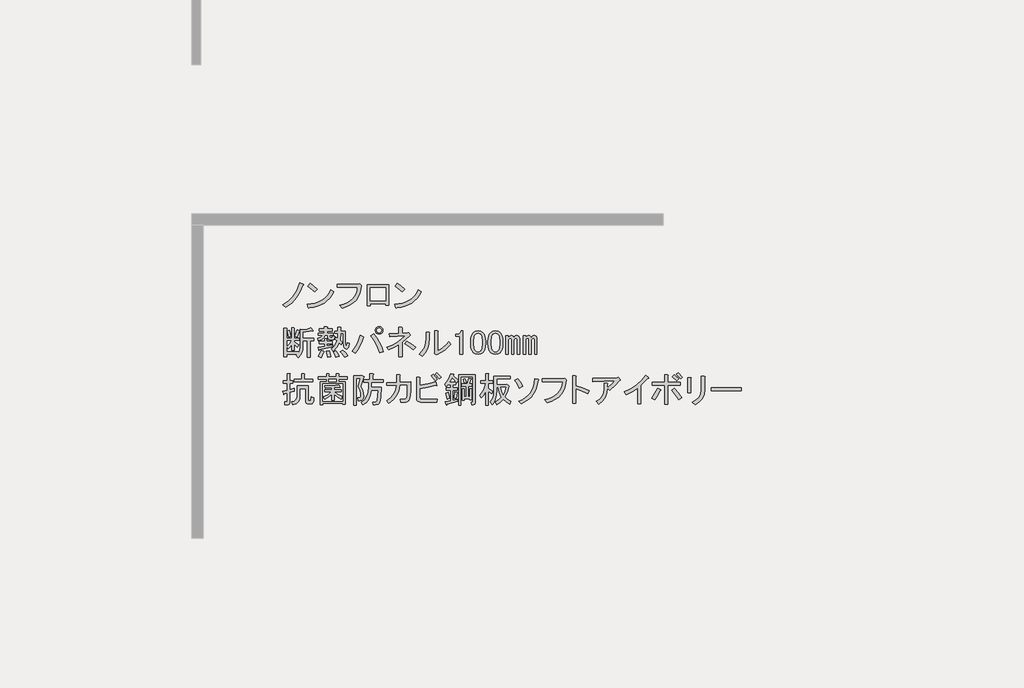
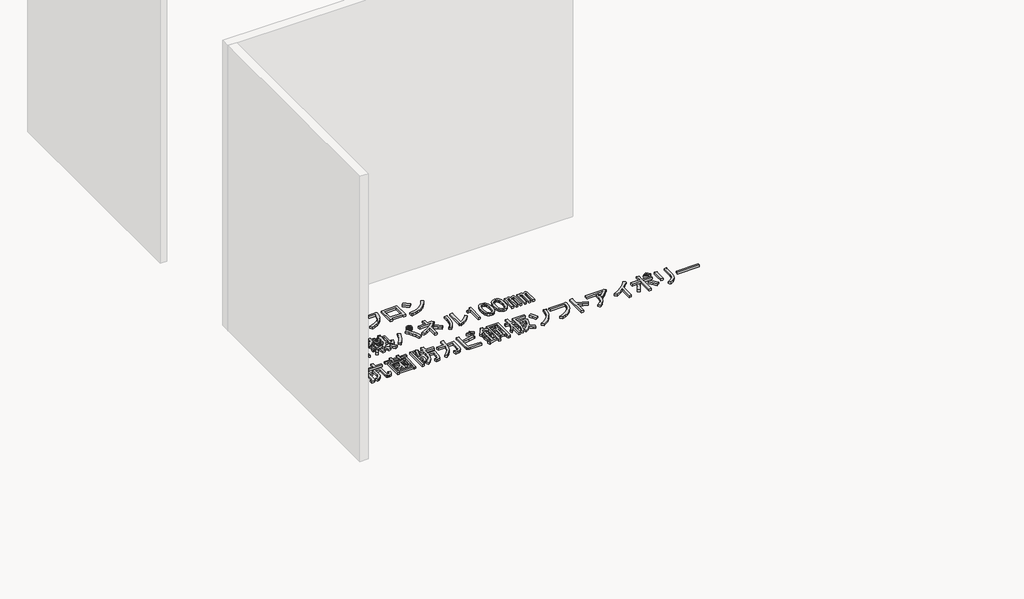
# One storey, part 23 of 117: 1 proxy.
"""IFC4 building model written with IfcOpenShell, lengths in millimetres."""

from ifc_helpers import new_model, si_unit, frame, origin, place, context, project, spatial, polyline, outline, extrude, element, save

model = new_model("IFC4")

# Units and contexts
model_context = context("Model", 3, world=origin())
ifc_project = project(units=[si_unit("LENGTHUNIT", "METRE", prefix="MILLI")], contexts=[model_context])

# Site, building, storey
site = spatial("IfcSite", under=ifc_project)
building = spatial("IfcBuilding", under=site)
storey = spatial("IfcBuildingStorey", under=building, Name="レベル 1", Elevation=500.0)

# Proxy
placement = place(None, origin())
element("IfcBuildingElementProxy", 1, Name="200㎜\u3000MS Pゴシック", ObjectType="200㎜\u3000MS Pゴシック", at=placement, inside=storey, context=model_context, shape_type="SweptSolid", body=[
    extrude(outline(polyline([(-7056.3293015, -4607.0496882), (-7081.9047498, -4666.8215225), (-7110.353844, -4712.7998566), (-7152.0217093, -4758.2034615), (-7201.1610538, -4795.560858), (-7228.7480543, -4773.7211493), (-7181.0455327, -4743.2605029), (-7141.3892195, -4704.7536481), (-7124.0036619, -4680.8305462), (-7108.6296565, -4652.7406577), (-7095.2672031, -4620.4839827), (-7083.9163019, -4584.0605212), (-7052.8809264, -4597.8540214), (-7049.7199159, -4602.4518548), (-7056.3293015, -4607.0496882)])), frame((0.0, 0.0, 500.0), z_axis=(0.0, 0.0, 1.0), x_axis=(1.0, 0.0, 0.0)), (0.0, 0.0, 1.0), 25.0),
    extrude(outline(polyline([(-6956.6022948, -4662.2236891), (-7015.2246708, -4615.0958967), (-6995.6838788, -4590.9572713), (-6968.3842429, -4610.7854279), (-6934.7625862, -4640.3839804), (-6956.6022948, -4662.2236891)])), frame((0.0, 0.0, 500.0), z_axis=(0.0, 0.0, 1.0), x_axis=(1.0, 0.0, 0.0)), (0.0, 0.0, 1.0), 25.0),
    extrude(outline(polyline([(-6794.5286672, -4662.2236891), (-6811.052131, -4691.965924), (-6830.1618761, -4717.9724192), (-6851.8579025, -4740.2431748), (-6876.1402102, -4758.7781907), (-6903.0087992, -4773.577467), (-6932.4636694, -4784.6410036), (-6964.504821, -4791.9688006), (-6999.1322539, -4795.560858), (-7004.8795456, -4803.6070664), (-7010.6268374, -4797.8597747), (-7019.8225042, -4767.9738575), (-6983.9917321, -4765.2977748), (-6951.2142088, -4758.9937141), (-6921.4899342, -4749.0616756), (-6894.8189084, -4735.5016591), (-6871.2011313, -4718.3136646), (-6850.636603, -4697.4976923), (-6833.1253234, -4673.053742), (-6818.6672926, -4644.9818138), (-6794.5286672, -4662.2236891)])), frame((0.0, 0.0, 500.0), z_axis=(0.0, 0.0, 1.0), x_axis=(1.0, 0.0, 0.0)), (0.0, 0.0, 1.0), 25.0),
    extrude(outline(polyline([(-6743.7685864, -4777.1695243), (-6709.985287, -4767.4889298), (-6680.4765359, -4755.1142922), (-6655.242333, -4740.0456116), (-6634.2826783, -4722.282888), (-6617.597572, -4701.8261214), (-6605.1870138, -4678.6753118), (-6597.0510039, -4652.8304591), (-6593.1895423, -4624.2915635), (-6765.6082951, -4624.2915635), (-6765.6082951, -4599.0034798), (-6590.8906256, -4599.0034798), (-6574.7982086, -4595.5551047), (-6562.1541668, -4607.0496882), (-6565.674383, -4643.5449909), (-6573.9361149, -4676.5919185), (-6586.9393625, -4706.1904711), (-6604.6841258, -4732.3406486), (-6627.1704048, -4755.042451), (-6654.3981995, -4774.2958784), (-6686.3675099, -4790.1009308), (-6723.078336, -4802.4576081), (-6743.7685864, -4777.1695243)])), frame((0.0, 0.0, 500.0), z_axis=(0.0, 0.0, 1.0), x_axis=(1.0, 0.0, 0.0)), (0.0, 0.0, 1.0), 25.0),
    extrude(outline(polyline([(-6329.044013, -4776.020066), (-6355.4815551, -4776.020066), (-6355.4815551, -4763.3760241), (-6483.0714321, -4763.3760241), (-6483.0714321, -4781.7673577), (-6509.5089742, -4781.7673577), (-6509.5089742, -4602.4518548), (-6329.044013, -4602.4518548), (-6329.044013, -4776.020066)]), holes=[polyline([(-6483.0714321, -4627.7399386), (-6483.0714321, -4738.0879404), (-6355.4815551, -4738.0879404), (-6355.4815551, -4627.7399386), (-6483.0714321, -4627.7399386)])]), frame((0.0, 0.0, 500.0), z_axis=(0.0, 0.0, 1.0), x_axis=(1.0, 0.0, 0.0)), (0.0, 0.0, 1.0), 25.0),
    extrude(outline(polyline([(-6052.9900951, -4662.2236891), (-6069.5135589, -4691.965924), (-6088.623304, -4717.9724192), (-6110.3193304, -4740.2431748), (-6134.6016381, -4758.7781907), (-6161.4702271, -4773.577467), (-6190.9250974, -4784.6410036), (-6222.9662489, -4791.9688006), (-6257.5936818, -4795.560858), (-6263.3409736, -4803.6070664), (-6269.0882653, -4797.8597747), (-6278.2839321, -4767.9738575), (-6242.4531601, -4765.2977748), (-6209.6756367, -4758.9937141), (-6179.9513622, -4749.0616756), (-6153.2803363, -4735.5016591), (-6129.6625593, -4718.3136646), (-6109.0980309, -4697.4976923), (-6091.5867514, -4673.053742), (-6077.1287205, -4644.9818138), (-6052.9900951, -4662.2236891)])), frame((0.0, 0.0, 500.0), z_axis=(0.0, 0.0, 1.0), x_axis=(1.0, 0.0, 0.0)), (0.0, 0.0, 1.0), 25.0),
    extrude(outline(polyline([(-6215.0637228, -4662.2236891), (-6273.6860987, -4615.0958967), (-6254.1453067, -4590.9572713), (-6226.8456709, -4610.7854279), (-6193.2240141, -4640.3839804), (-6215.0637228, -4662.2236891)])), frame((0.0, 0.0, 500.0), z_axis=(0.0, 0.0, 1.0), x_axis=(1.0, 0.0, 0.0)), (0.0, 0.0, 1.0), 25.0),
    extrude(outline(polyline([(-7122.9978859, -5039.2345221), (-7105.7560106, -4986.3594379), (-7085.0657603, -4992.1067296), (-7083.3415727, -4995.2677401), (-7087.364677, -4997.8540214), (-7104.6065523, -5046.1312722), (-7122.9978859, -5039.2345221)])), frame((0.0, 0.0, 500.0), z_axis=(0.0, 0.0, 1.0), x_axis=(1.0, 0.0, 0.0)), (0.0, 0.0, 1.0), 25.0),
    extrude(outline(polyline([(-6968.9704667, -4990.9572713), (-6970.6946542, -4995.5551047), (-6978.1661335, -4993.256188), (-7055.1798431, -5005.9002299), (-7055.1798431, -5055.326939), (-6963.2231749, -5055.326939), (-6963.2231749, -5077.1666477), (-6994.2585505, -5077.1666477), (-6994.2585505, -5217.4005666), (-7017.2477175, -5217.4005666), (-7017.2477175, -5077.1666477), (-7055.1798431, -5077.1666477), (-7055.1798431, -5126.5933568), (-7057.7661244, -5154.3958807), (-7065.5249683, -5179.1810764), (-7078.4563747, -5200.948944), (-7096.5603438, -5219.6994833), (-7113.8022191, -5200.1586914), (-7103.4570939, -5190.9630245), (-7193.1148454, -5190.9630245), (-7193.1148454, -5212.8027332), (-7216.1040124, -5212.8027332), (-7216.1040124, -4973.715396), (-7194.2643037, -4973.715396), (-7189.3791057, -4976.0143127), (-7193.1148454, -4980.6121461), (-7193.1148454, -5056.4763974), (-7150.5848863, -5056.4763974), (-7150.5848863, -4969.1175626), (-7132.1935527, -4969.1175626), (-7127.3083547, -4971.4164793), (-7131.0440943, -4976.0143127), (-7131.0440943, -5056.4763974), (-7087.364677, -5056.4763974), (-7087.364677, -5074.867731), (-7131.0440943, -5074.867731), (-7131.0440943, -5084.0633978), (-7090.813052, -5110.5009399), (-7104.6065523, -5132.3406486), (-7131.0440943, -5105.9031065), (-7131.0440943, -5158.7781907), (-7150.5848863, -5158.7781907), (-7150.5848863, -5110.5009399), (-7163.8036574, -5130.3290965), (-7178.1718868, -5146.1341488), (-7190.8159287, -5127.7428152), (-7168.97622, -5103.6041898), (-7151.7343447, -5074.867731), (-7193.1148454, -5074.867731), (-7193.1148454, -5169.1233159), (-7095.4108854, -5169.1233159), (-7095.4108854, -5182.9168161), (-7082.479479, -5158.7781907), (-7078.1690102, -5125.4438985), (-7078.1690102, -4980.6121461), (-7056.3293015, -4986.3594379), (-7020.1213634, -4978.8879586), (-6989.660717, -4965.6691875), (-6968.9704667, -4990.9572713)])), frame((0.0, 0.0, 500.0), z_axis=(0.0, 0.0, 1.0), x_axis=(1.0, 0.0, 0.0)), (0.0, 0.0, 1.0), 25.0),
    extrude(outline(polyline([(-7177.0224284, -5047.2807305), (-7189.6664703, -4996.7045631), (-7170.1256783, -4989.8078129), (-7162.3668344, -5013.9464383), (-7157.4816364, -5040.3839804), (-7177.0224284, -5047.2807305)])), frame((0.0, 0.0, 500.0), z_axis=(0.0, 0.0, 1.0), x_axis=(1.0, 0.0, 0.0)), (0.0, 0.0, 1.0), 25.0),
    extrude(outline(polyline([(-6878.1632569, -5167.9738575), (-6874.7148818, -5172.8590555), (-6880.4621736, -5176.020066), (-6890.2325696, -5201.5955143), (-6901.1524239, -5220.8489417), (-6924.141591, -5209.3543582), (-6911.4975491, -5185.790462), (-6901.1524239, -5158.7781907), (-6878.1632569, -5167.9738575)])), frame((0.0, 0.0, 500.0), z_axis=(0.0, 0.0, 1.0), x_axis=(1.0, 0.0, 0.0)), (0.0, 0.0, 1.0), 25.0),
    extrude(outline(polyline([(-6833.3343812, -5163.3760241), (-6823.2766206, -5190.67566), (-6818.3914226, -5212.8027332), (-6847.1278814, -5218.550025), (-6849.7141627, -5196.9976809), (-6857.4730066, -5166.8243992), (-6833.3343812, -5163.3760241)])), frame((0.0, 0.0, 500.0), z_axis=(0.0, 0.0, 1.0), x_axis=(1.0, 0.0, 0.0)), (0.0, 0.0, 1.0), 25.0),
    extrude(outline(polyline([(-6718.388546, -5157.6287323), (-6693.6751914, -5178.8937119), (-6674.7091286, -5203.6070664), (-6701.1466707, -5218.550025), (-6720.4000981, -5188.9514724), (-6739.0787963, -5169.1233159), (-6718.388546, -5157.6287323)])), frame((0.0, 0.0, 500.0), z_axis=(0.0, 0.0, 1.0), x_axis=(1.0, 0.0, 0.0)), (0.0, 0.0, 1.0), 25.0),
    extrude(outline(polyline([(-6777.0109219, -5216.2511083), (-6785.344495, -5191.5377537), (-6798.8506306, -5170.2727742), (-6778.1603803, -5162.2265657), (-6761.2058696, -5183.7789098), (-6749.4239215, -5207.0554415), (-6777.0109219, -5216.2511083)])), frame((0.0, 0.0, 500.0), z_axis=(0.0, 0.0, 1.0), x_axis=(1.0, 0.0, 0.0)), (0.0, 0.0, 1.0), 25.0),
    extrude(outline(polyline([(-6916.0953825, -5153.0308989), (-6918.1069346, -5157.9160969), (-6921.8426743, -5156.479274), (-6927.589966, -5132.3406486), (-6872.4159651, -5124.2944401), (-6872.4159651, -5101.3052731), (-6916.0953825, -5101.3052731), (-6916.0953825, -5082.9139395), (-6872.4159651, -5082.9139395), (-6872.4159651, -5059.9247724), (-6854.0246315, -5059.9247724), (-6849.1394335, -5062.2236891), (-6852.8751732, -5066.8215225), (-6852.8751732, -5082.9139395), (-6808.0462974, -5082.9139395), (-6808.0462974, -5101.3052731), (-6852.8751732, -5101.3052731), (-6852.8751732, -5120.8460651), (-6802.2990057, -5111.6503983), (-6802.2990057, -5127.7428152), (-6916.0953825, -5153.0308989)])), frame((0.0, 0.0, 500.0), z_axis=(0.0, 0.0, 1.0), x_axis=(1.0, 0.0, 0.0)), (0.0, 0.0, 1.0), 25.0),
    extrude(outline(polyline([(-6845.978423, -5031.1883136), (-6871.2665068, -5031.1883136), (-6875.8643402, -5048.6457123), (-6886.2094654, -5061.9363245), (-6902.3018823, -5071.0601502), (-6924.141591, -5076.0171893), (-6928.7394244, -5056.4763974), (-6903.4513406, -5047.8554597), (-6895.9798614, -5040.5276627), (-6891.9567571, -5031.1883136), (-6927.589966, -5031.1883136), (-6927.589966, -5012.79698), (-6873.5654235, -5012.79698), (-6873.5654235, -4995.5551047), (-6917.2448409, -4995.5551047), (-6917.2448409, -4977.1637711), (-6873.5654235, -4977.1637711), (-6873.5654235, -4958.7724374), (-6851.7257148, -4958.7724374), (-6846.8405168, -4961.0713541), (-6850.5762564, -4965.6691875), (-6850.5762564, -4977.1637711), (-6808.0462974, -4977.1637711), (-6808.0462974, -4995.5551047), (-6850.5762564, -4995.5551047), (-6850.5762564, -5012.79698), (-6797.7011723, -5012.79698), (-6797.7011723, -5031.1883136), (-6826.4376311, -5031.1883136), (-6826.4376311, -5043.8323555), (-6825.0008081, -5049.0049181), (-6820.6903393, -5050.7291056), (-6810.3452141, -5050.7291056), (-6806.6094745, -5047.5680951), (-6806.8968391, -5038.0850637), (-6787.3560471, -5040.3839804), (-6790.229693, -5061.9363245), (-6795.5459378, -5067.3244106), (-6803.448464, -5069.1204392), (-6827.5870894, -5069.1204392), (-6841.3805896, -5064.2352412), (-6845.978423, -5049.5796472), (-6845.978423, -5031.1883136)])), frame((0.0, 0.0, 500.0), z_axis=(0.0, 0.0, 1.0), x_axis=(1.0, 0.0, 0.0)), (0.0, 0.0, 1.0), 25.0),
    extrude(outline(polyline([(-6714.9401709, -5013.9464383), (-6736.7798796, -5013.9464383), (-6741.377713, -5071.4193559), (-6721.836921, -5089.8106896), (-6732.1820462, -5111.6503983), (-6748.2744631, -5095.5579813), (-6767.5278905, -5133.2027424), (-6797.7011723, -5165.6749408), (-6814.9430475, -5144.9846905), (-6799.8564067, -5133.0590601), (-6786.7813179, -5117.9724192), (-6775.7177813, -5099.7247679), (-6766.6657967, -5078.316106), (-6783.907672, -5063.3731475), (-6775.8614636, -5046.1312722), (-6762.0679633, -5056.4763974), (-6759.7690466, -5013.9464383), (-6787.3560471, -5013.9464383), (-6787.3560471, -4995.5551047), (-6759.7690466, -4995.5551047), (-6759.7690466, -4961.0713541), (-6737.9293379, -4961.0713541), (-6733.04414, -4963.3702708), (-6736.7798796, -4967.9681043), (-6736.7798796, -4995.5551047), (-6695.3993789, -4995.5551047), (-6695.3993789, -5092.1096063), (-6691.9510039, -5116.2482317), (-6688.7181523, -5118.2597838), (-6685.9163475, -5115.0987733), (-6681.6058787, -5093.2590646), (-6662.0650867, -5100.1558147), (-6666.591079, -5126.9525626), (-6674.421764, -5142.9731384), (-6685.5571418, -5148.2175421), (-6699.9972123, -5142.6857738), (-6706.5347567, -5135.3579768), (-6711.2044313, -5123.719711), (-6714.9401709, -5087.5117729), (-6714.9401709, -5013.9464383)])), frame((0.0, 0.0, 500.0), z_axis=(0.0, 0.0, 1.0), x_axis=(1.0, 0.0, 0.0)), (0.0, 0.0, 1.0), 25.0),
    extrude(outline(polyline([(-6456.3120417, -5016.245355), (-6429.6589762, -5052.9561812), (-6407.1726971, -5090.6727833), (-6388.8532047, -5129.3951616), (-6374.7004987, -5169.1233159), (-6405.7358742, -5179.468441), (-6421.1817208, -5136.3637528), (-6438.7828018, -5097.856898), (-6458.5391173, -5063.9478766), (-6480.4506671, -5034.6366887), (-6456.3120417, -5016.245355)])), frame((0.0, 0.0, 500.0), z_axis=(0.0, 0.0, 1.0), x_axis=(1.0, 0.0, 0.0)), (0.0, 0.0, 1.0), 25.0),
    extrude(outline(polyline([(-6543.6708765, -5042.6828971), (-6539.6477722, -5048.1428243), (-6545.9697932, -5053.0280223), (-6557.8954236, -5088.4457078), (-6572.9820644, -5122.282888), (-6591.2297158, -5154.539563), (-6612.6383776, -5185.2157328), (-6639.0759197, -5167.9738575), (-6615.8712292, -5136.5074351), (-6596.8333252, -5103.0294606), (-6581.9622078, -5067.539934), (-6571.2578769, -5030.0388553), (-6543.6708765, -5042.6828971)])), frame((0.0, 0.0, 500.0), z_axis=(0.0, 0.0, 1.0), x_axis=(1.0, 0.0, 0.0)), (0.0, 0.0, 1.0), 25.0),
    extrude(outline(polyline([(-6410.3337076, -5021.9926468), (-6422.9777495, -5019.6937301), (-6433.3228747, -5012.79698), (-6440.2196248, -5002.4518548), (-6442.5185415, -4989.8078129), (-6440.2196248, -4977.1637711), (-6433.3228747, -4966.8186459), (-6422.9777495, -4959.9218958), (-6410.3337076, -4957.6229791), (-6397.6896657, -4959.9218958), (-6387.3445406, -4966.8186459), (-6380.4477905, -4977.1637711), (-6378.1488738, -4989.8078129), (-6380.4477905, -5002.4518548), (-6387.3445406, -5012.79698), (-6397.6896657, -5019.6937301), (-6410.3337076, -5021.9926468)]), holes=[polyline([(-6410.3337076, -5010.4980633), (-6402.0001346, -5009.0612403), (-6395.390749, -5004.7507715), (-6391.0802802, -4998.141386), (-6389.6434573, -4989.8078129), (-6391.0802802, -4981.4742399), (-6395.390749, -4974.8648544), (-6402.0001346, -4970.5543855), (-6410.3337076, -4969.1175626), (-6418.6672807, -4970.5543855), (-6425.2766662, -4974.8648544), (-6429.587135, -4981.4742399), (-6431.023958, -4989.8078129), (-6429.587135, -4998.141386), (-6425.2766662, -5004.7507715), (-6418.6672807, -5009.0612403), (-6410.3337076, -5010.4980633)])]), frame((0.0, 0.0, 500.0), z_axis=(0.0, 0.0, 1.0), x_axis=(1.0, 0.0, 0.0)), (0.0, 0.0, 1.0), 25.0),
    extrude(outline(polyline([(-6120.6702029, -5155.3298156), (-6157.7402348, -5126.0186277), (-6190.7871624, -5104.7536481), (-6173.5452871, -5082.9139395), (-6134.7510677, -5106.1904711), (-6101.1294109, -5132.3406486), (-6120.6702029, -5155.3298156)])), frame((0.0, 0.0, 500.0), z_axis=(0.0, 0.0, 1.0), x_axis=(1.0, 0.0, 0.0)), (0.0, 0.0, 1.0), 25.0),
    extrude(outline(polyline([(-6166.648537, -5011.6475216), (-6159.7517869, -5009.3486049), (-6147.107745, -5026.5904802), (-6145.9582866, -5032.6251366), (-6151.7055784, -5034.6366887), (-6214.9257878, -5090.9601479), (-6214.9257878, -5211.6532749), (-6241.3633299, -5211.6532749), (-6241.3633299, -5109.3514816), (-6281.5943722, -5133.4901069), (-6326.4232479, -5155.3298156), (-6345.9640399, -5134.6395653), (-6300.4167527, -5115.1706145), (-6259.1799343, -5092.3969709), (-6222.2535848, -5066.3186345), (-6189.637704, -5036.9356054), (-6319.5264978, -5042.6828971), (-6322.9748729, -5017.3948134), (-6241.3633299, -5015.0958967), (-6241.3633299, -4963.3702708), (-6218.3741628, -4963.3702708), (-6212.3395065, -4966.8186459), (-6214.9257878, -4972.5659377), (-6214.9257878, -5013.9464383), (-6166.648537, -5011.6475216)])), frame((0.0, 0.0, 500.0), z_axis=(0.0, 0.0, 1.0), x_axis=(1.0, 0.0, 0.0)), (0.0, 0.0, 1.0), 25.0),
    extrude(outline(polyline([(-6067.703162, -5193.2619413), (-6042.5587606, -5164.0225944), (-6024.5984738, -5131.4785548), (-6013.8223018, -5095.6298225), (-6010.2302444, -5056.4763974), (-6010.2302444, -5004.7507715), (-5986.091619, -5004.7507715), (-5980.3443273, -5008.1991466), (-5983.7927023, -5013.9464383), (-5983.7927023, -5055.326939), (-5987.6002831, -5101.0897496), (-5999.0230255, -5141.82368), (-6018.0609295, -5177.5287301), (-6044.713995, -5208.2048998), (-6067.703162, -5193.2619413)])), frame((0.0, 0.0, 500.0), z_axis=(0.0, 0.0, 1.0), x_axis=(1.0, 0.0, 0.0)), (0.0, 0.0, 1.0), 25.0),
    extrude(outline(polyline([(-5913.6757429, -5162.2265657), (-5888.8905471, -5150.0135708), (-5865.1111275, -5132.9153778), (-5842.3374839, -5110.9319868), (-5820.5696163, -5084.0633978), (-5804.4771994, -5105.9031065), (-5827.753731, -5133.7056304), (-5853.9039086, -5157.3413678), (-5882.9277319, -5176.8103186), (-5914.8252012, -5192.1124829), (-5924.020868, -5196.7103163), (-5942.4122017, -5182.9168161), (-5940.113285, -5177.1695243), (-5940.113285, -4992.1067296), (-5915.9746596, -4992.1067296), (-5910.2273678, -4995.5551047), (-5913.6757429, -5001.3023965), (-5913.6757429, -5162.2265657)])), frame((0.0, 0.0, 500.0), z_axis=(0.0, 0.0, 1.0), x_axis=(1.0, 0.0, 0.0)), (0.0, 0.0, 1.0), 25.0),
    extrude(outline(polyline([(-5725.1645731, -5015.0958967), (-5717.1183647, -5004.1760423), (-5713.6699896, -4992.1067296), (-5699.8764894, -4992.1067296), (-5699.8764894, -5190.9630245), (-5726.3140315, -5190.9630245), (-5726.3140315, -5038.0850637), (-5760.797782, -5038.0850637), (-5760.797782, -5024.2915635), (-5750.4526569, -5024.2915635), (-5736.0844275, -5021.9926468), (-5725.1645731, -5015.0958967)])), frame((0.0, 0.0, 500.0), z_axis=(0.0, 0.0, 1.0), x_axis=(1.0, 0.0, 0.0)), (0.0, 0.0, 1.0), 25.0),
    extrude(outline(polyline([(-5634.3573633, -5081.7644811), (-5632.9205404, -5058.2005849), (-5628.6100716, -5038.0850637), (-5621.4259569, -5021.4179176), (-5611.3681963, -5008.1991466), (-5593.2642272, -4996.1298339), (-5571.137154, -4992.1067296), (-5549.0100807, -4996.1298339), (-5530.9061116, -5008.1991466), (-5520.8483511, -5021.4179176), (-5513.6642364, -5038.0850637), (-5509.3537675, -5058.2005849), (-5507.9169446, -5081.7644811), (-5507.9169446, -5104.7536481), (-5509.3537675, -5127.8146563), (-5513.6642364, -5147.5709718), (-5520.8483511, -5164.0225944), (-5530.9061116, -5177.1695243), (-5549.0100807, -5189.238837), (-5571.137154, -5193.2619413), (-5593.2642272, -5189.238837), (-5611.3681963, -5177.1695243), (-5621.4259569, -5164.0225944), (-5628.6100716, -5147.5709718), (-5632.9205404, -5127.8146563), (-5634.3573633, -5104.7536481), (-5634.3573633, -5081.7644811)]), holes=[polyline([(-5571.137154, -5013.9464383), (-5582.0570083, -5016.245355), (-5591.8274043, -5023.1421052), (-5598.3649487, -5032.2659308), (-5603.0346232, -5044.6944493), (-5606.7703629, -5079.4655644), (-5606.7703629, -5105.9031065), (-5602.7472586, -5140.0994925), (-5597.7183783, -5152.6716932), (-5590.6779459, -5162.2265657), (-5581.1949145, -5169.1233159), (-5571.137154, -5171.4222326), (-5560.2172996, -5169.1233159), (-5550.4469036, -5162.2265657), (-5543.9093592, -5153.1027401), (-5539.2396847, -5140.6742216), (-5535.503945, -5105.9031065), (-5535.503945, -5079.4655644), (-5539.2396847, -5044.6944493), (-5543.9093592, -5032.2659308), (-5550.4469036, -5023.1421052), (-5560.2172996, -5016.245355), (-5571.137154, -5013.9464383)])]), frame((0.0, 0.0, 500.0), z_axis=(0.0, 0.0, 1.0), x_axis=(1.0, 0.0, 0.0)), (0.0, 0.0, 1.0), 25.0),
    extrude(outline(polyline([(-5487.2266943, -5081.7644811), (-5485.7898713, -5058.2005849), (-5481.4794025, -5038.0850637), (-5474.2952878, -5021.4179176), (-5464.2375272, -5008.1991466), (-5446.1335582, -4996.1298339), (-5424.0064849, -4992.1067296), (-5401.8794116, -4996.1298339), (-5383.7754426, -5008.1991466), (-5373.717682, -5021.4179176), (-5366.5335673, -5038.0850637), (-5362.2230985, -5058.2005849), (-5360.7862755, -5081.7644811), (-5360.7862755, -5104.7536481), (-5362.2230985, -5127.8146563), (-5366.5335673, -5147.5709718), (-5373.717682, -5164.0225944), (-5383.7754426, -5177.1695243), (-5401.8794116, -5189.238837), (-5424.0064849, -5193.2619413), (-5446.1335582, -5189.238837), (-5464.2375272, -5177.1695243), (-5474.2952878, -5164.0225944), (-5481.4794025, -5147.5709718), (-5485.7898713, -5127.8146563), (-5487.2266943, -5104.7536481), (-5487.2266943, -5081.7644811)]), holes=[polyline([(-5424.0064849, -5013.9464383), (-5434.9263392, -5016.245355), (-5444.6967352, -5023.1421052), (-5451.2342796, -5032.2659308), (-5455.9039542, -5044.6944493), (-5459.6396938, -5079.4655644), (-5459.6396938, -5105.9031065), (-5455.6165896, -5140.0994925), (-5450.5877093, -5152.6716932), (-5443.5472769, -5162.2265657), (-5434.0642455, -5169.1233159), (-5424.0064849, -5171.4222326), (-5413.0866306, -5169.1233159), (-5403.3162346, -5162.2265657), (-5396.7786902, -5153.1027401), (-5392.1090156, -5140.6742216), (-5388.373276, -5105.9031065), (-5388.373276, -5079.4655644), (-5392.1090156, -5044.6944493), (-5396.7786902, -5032.2659308), (-5403.3162346, -5023.1421052), (-5413.0866306, -5016.245355), (-5424.0064849, -5013.9464383)])]), frame((0.0, 0.0, 500.0), z_axis=(0.0, 0.0, 1.0), x_axis=(1.0, 0.0, 0.0)), (0.0, 0.0, 1.0), 25.0),
    extrude(outline(polyline([(-5315.9573998, -5193.2619413), (-5335.4981918, -5193.2619413), (-5335.4981918, -5035.786147), (-5315.9573998, -5035.786147), (-5315.9573998, -5053.0280223), (-5303.8880871, -5037.5103346), (-5290.6693161, -5032.337772), (-5281.4736492, -5033.7745949), (-5274.5768991, -5038.0850637), (-5267.680149, -5051.878564), (-5254.7487426, -5037.22297), (-5241.2426069, -5032.337772), (-5232.9090339, -5033.7745949), (-5226.2996483, -5038.0850637), (-5221.1270858, -5046.7060014), (-5219.4028982, -5058.7753141), (-5219.4028982, -5193.2619413), (-5238.9436902, -5193.2619413), (-5238.9436902, -5069.1204392), (-5241.5299715, -5059.6374078), (-5249.2888154, -5056.4763974), (-5259.6339406, -5061.0742308), (-5265.6685969, -5069.6951684), (-5267.680149, -5079.4655644), (-5267.680149, -5193.2619413), (-5287.220941, -5193.2619413), (-5287.220941, -5069.1204392), (-5289.8072223, -5059.6374078), (-5297.5660662, -5056.4763974), (-5307.9111913, -5061.0742308), (-5313.9458477, -5069.6951684), (-5315.9573998, -5079.4655644), (-5315.9573998, -5193.2619413)])), frame((0.0, 0.0, 500.0), z_axis=(0.0, 0.0, 1.0), x_axis=(1.0, 0.0, 0.0)), (0.0, 0.0, 1.0), 25.0),
    extrude(outline(polyline([(-5094.1119379, -5032.337772), (-5085.7783648, -5033.7745949), (-5079.1689793, -5038.0850637), (-5073.9964167, -5046.7060014), (-5072.2722292, -5058.7753141), (-5072.2722292, -5193.2619413), (-5091.8130212, -5193.2619413), (-5091.8130212, -5069.1204392), (-5094.3993024, -5059.6374078), (-5102.1581463, -5056.4763974), (-5112.5032715, -5061.0742308), (-5118.5379278, -5069.6951684), (-5120.54948, -5079.4655644), (-5120.54948, -5193.2619413), (-5140.0902719, -5193.2619413), (-5140.0902719, -5069.1204392), (-5142.6765532, -5059.6374078), (-5150.4353971, -5056.4763974), (-5160.7805223, -5061.0742308), (-5166.8151786, -5069.6951684), (-5168.8267307, -5079.4655644), (-5168.8267307, -5193.2619413), (-5188.3675227, -5193.2619413), (-5188.3675227, -5035.786147), (-5168.8267307, -5035.786147), (-5168.8267307, -5053.0280223), (-5156.757418, -5037.5103346), (-5143.538647, -5032.337772), (-5134.3429802, -5033.7745949), (-5127.4462301, -5038.0850637), (-5120.54948, -5051.878564), (-5107.6180735, -5037.22297), (-5094.1119379, -5032.337772)])), frame((0.0, 0.0, 500.0), z_axis=(0.0, 0.0, 1.0), x_axis=(1.0, 0.0, 0.0)), (0.0, 0.0, 1.0), 25.0),
    extrude(outline(polyline([(-7010.3509674, -5461.0742308), (-7010.3509674, -5577.1695243), (-7008.3394153, -5584.0662744), (-7002.3047589, -5586.3651911), (-6995.4080088, -5586.3651911), (-6990.8101754, -5584.0662744), (-6988.5112587, -5577.1695243), (-6986.212342, -5554.1803573), (-6962.0737166, -5562.2265657), (-6964.3726333, -5585.2157328), (-6966.67155, -5596.7821575), (-6971.2693834, -5605.0438894), (-6978.1661335, -5610.0009285), (-6987.3618003, -5611.6532749), (-7009.201509, -5611.6532749), (-7019.7621576, -5610.3601342), (-7027.3054781, -5606.4807123), (-7031.8314703, -5600.0150091), (-7033.3401344, -5590.9630245), (-7033.3401344, -5482.9139395), (-7080.4679269, -5482.9139395), (-7080.4679269, -5548.4330655), (-7084.2036665, -5573.2901024), (-7095.4108854, -5593.8366704), (-7114.0895837, -5610.0727697), (-7140.2397612, -5621.9984001), (-7149.435428, -5596.7103163), (-7129.3199068, -5589.238837), (-7114.9516774, -5578.3189827), (-7106.3307398, -5563.9507533), (-7103.4570939, -5546.1341488), (-7103.4570939, -5461.0742308), (-7010.3509674, -5461.0742308)])), frame((0.0, 0.0, 500.0), z_axis=(0.0, 0.0, 1.0), x_axis=(1.0, 0.0, 0.0)), (0.0, 0.0, 1.0), 25.0),
    extrude(outline(polyline([(-7212.6556373, -5527.7428152), (-7216.1040124, -5533.7774715), (-7219.5523875, -5528.8922735), (-7227.5985959, -5505.9031065), (-7189.6664703, -5497.856898), (-7189.6664703, -5438.0850637), (-7223.0007625, -5438.0850637), (-7223.0007625, -5416.245355), (-7189.6664703, -5416.245355), (-7189.6664703, -5356.4735207), (-7167.8267616, -5356.4735207), (-7162.9415636, -5358.7724374), (-7166.6773033, -5363.3702708), (-7166.6773033, -5416.245355), (-7140.2397612, -5416.245355), (-7140.2397612, -5438.0850637), (-7166.6773033, -5438.0850637), (-7166.6773033, -5492.1096063), (-7131.0440943, -5481.7644811), (-7128.7451776, -5503.6041898), (-7166.6773033, -5515.0987733), (-7166.6773033, -5603.6070664), (-7170.4130429, -5615.6763791), (-7181.6202618, -5619.6994833), (-7208.0578039, -5619.6994833), (-7211.506179, -5594.4113996), (-7194.2643037, -5594.4113996), (-7190.8159287, -5593.2619413), (-7189.6664703, -5589.8135662), (-7189.6664703, -5520.8460651), (-7212.6556373, -5527.7428152)])), frame((0.0, 0.0, 500.0), z_axis=(0.0, 0.0, 1.0), x_axis=(1.0, 0.0, 0.0)), (0.0, 0.0, 1.0), 25.0),
    extrude(outline(polyline([(-7066.6744266, -5403.6013132), (-7066.6744266, -5357.6229791), (-7044.8347179, -5357.6229791), (-7039.9495199, -5359.9218958), (-7043.6852596, -5364.5197292), (-7043.6852596, -5403.6013132), (-6972.4188418, -5403.6013132), (-6972.4188418, -5425.4410219), (-7128.7451776, -5425.4410219), (-7128.7451776, -5403.6013132), (-7066.6744266, -5403.6013132)])), frame((0.0, 0.0, 500.0), z_axis=(0.0, 0.0, 1.0), x_axis=(1.0, 0.0, 0.0)), (0.0, 0.0, 1.0), 25.0),
    extrude(outline(polyline([(-6870.1170484, -5461.0742308), (-6804.0231932, -5457.3384911), (-6752.8722965, -5450.7291056), (-6742.5271714, -5464.5226058), (-6740.2282547, -5470.5572622), (-6747.1250048, -5470.2698976), (-6791.9538805, -5473.7182726), (-6791.9538805, -5490.9601479), (-6732.1820462, -5490.9601479), (-6732.1820462, -5509.3514816), (-6788.5055054, -5509.3514816), (-6757.1827653, -5533.7774715), (-6720.6874627, -5549.5825239), (-6728.7336711, -5571.4222326), (-6761.2058696, -5555.9045448), (-6791.9538805, -5530.0417319), (-6791.9538805, -5580.6178994), (-6811.4946725, -5580.6178994), (-6811.4946725, -5531.1911902), (-6836.4953916, -5553.8929927), (-6872.4159651, -5573.7211493), (-6881.611632, -5554.1803573), (-6842.8174126, -5534.3522007), (-6813.7935892, -5509.3514816), (-6871.2665068, -5509.3514816), (-6871.2665068, -5490.9601479), (-6811.4946725, -5490.9601479), (-6811.4946725, -5476.0171893), (-6865.519215, -5478.316106), (-6870.1170484, -5461.0742308)])), frame((0.0, 0.0, 500.0), z_axis=(0.0, 0.0, 1.0), x_axis=(1.0, 0.0, 0.0)), (0.0, 0.0, 1.0), 25.0),
    extrude(outline(polyline([(-6751.7228382, -5423.1421052), (-6696.5488373, -5423.1421052), (-6696.5488373, -5617.4005666), (-6716.0896293, -5617.4005666), (-6716.0896293, -5608.2048998), (-6888.5083821, -5608.2048998), (-6888.5083821, -5621.9984001), (-6908.0491741, -5621.9984001), (-6908.0491741, -5423.1421052), (-6855.1740899, -5423.1421052), (-6855.1740899, -5402.4518548), (-6925.2910493, -5402.4518548), (-6925.2910493, -5384.0605212), (-6855.1740899, -5384.0605212), (-6855.1740899, -5357.6229791), (-6836.7827562, -5357.6229791), (-6831.8975582, -5359.9218958), (-6835.6332979, -5364.5197292), (-6835.6332979, -5384.0605212), (-6771.2636302, -5384.0605212), (-6771.2636302, -5357.6229791), (-6752.8722965, -5357.6229791), (-6747.9870985, -5359.9218958), (-6751.7228382, -5364.5197292), (-6751.7228382, -5384.0605212), (-6678.1575036, -5384.0605212), (-6678.1575036, -5402.4518548), (-6751.7228382, -5402.4518548), (-6751.7228382, -5423.1421052)]), holes=[polyline([(-6888.5083821, -5441.5334388), (-6888.5083821, -5589.8135662), (-6716.0896293, -5589.8135662), (-6716.0896293, -5441.5334388), (-6888.5083821, -5441.5334388)]), polyline([(-6835.6332979, -5423.1421052), (-6771.2636302, -5423.1421052), (-6771.2636302, -5402.4518548), (-6835.6332979, -5402.4518548), (-6835.6332979, -5423.1421052)])]), frame((0.0, 0.0, 500.0), z_axis=(0.0, 0.0, 1.0), x_axis=(1.0, 0.0, 0.0)), (0.0, 0.0, 1.0), 25.0),
    extrude(outline(polyline([(-6475.8528337, -5495.5579813), (-6483.0369484, -5538.7345107), (-6497.6925424, -5574.0085139), (-6519.8196156, -5601.3799909), (-6549.4181682, -5620.8489417), (-6560.9127517, -5597.8597747), (-6533.2539101, -5578.0316181), (-6513.4975947, -5549.5825239), (-6501.6438055, -5512.512492), (-6497.6925424, -5466.8215225), (-6497.6925424, -5428.8893969), (-6541.3719597, -5428.8893969), (-6541.3719597, -5407.0496882), (-6488.4968756, -5407.0496882), (-6488.4968756, -5358.7724374), (-6463.2087918, -5358.7724374), (-6457.1741355, -5362.2208125), (-6462.0593335, -5367.9681043), (-6462.0593335, -5407.0496882), (-6373.5510404, -5407.0496882), (-6373.5510404, -5428.8893969), (-6474.7033753, -5428.8893969), (-6474.7033753, -5473.7182726), (-6391.942374, -5473.7182726), (-6397.6896657, -5555.9045448), (-6405.7358742, -5600.1586914), (-6410.6210722, -5608.7077879), (-6418.3799161, -5614.8142854), (-6442.5185415, -5619.6994833), (-6460.9098751, -5619.6994833), (-6464.3582502, -5597.8597747), (-6447.1163749, -5597.8597747), (-6434.7596976, -5594.6987642), (-6427.5755829, -5585.2157328), (-6418.3799161, -5495.5579813), (-6475.8528337, -5495.5579813)])), frame((0.0, 0.0, 500.0), z_axis=(0.0, 0.0, 1.0), x_axis=(1.0, 0.0, 0.0)), (0.0, 0.0, 1.0), 25.0),
    extrude(outline(polyline([(-6542.5214181, -5520.8460651), (-6540.5817071, -5548.5049067), (-6545.1076994, -5568.2612221), (-6556.0993949, -5580.1150114), (-6573.5567936, -5584.0662744), (-6587.3502938, -5584.0662744), (-6591.9481272, -5562.2265657), (-6580.4535437, -5562.2265657), (-6572.1199707, -5560.0713313), (-6566.6600435, -5553.6056281), (-6564.0737622, -5542.8294561), (-6564.3611268, -5527.7428152), (-6571.2578769, -5500.7305439), (-6587.3502938, -5465.6720642), (-6568.9589602, -5394.4056463), (-6603.4427108, -5394.4056463), (-6603.4427108, -5623.1478584), (-6626.4318778, -5623.1478584), (-6626.4318778, -5372.5659377), (-6562.0622101, -5372.5659377), (-6559.7632934, -5367.9681043), (-6535.624668, -5380.6121461), (-6534.187845, -5384.3478858), (-6539.073043, -5386.3594379), (-6565.5105851, -5464.5226058), (-6549.9928974, -5496.9948043), (-6542.5214181, -5520.8460651)])), frame((0.0, 0.0, 500.0), z_axis=(0.0, 0.0, 1.0), x_axis=(1.0, 0.0, 0.0)), (0.0, 0.0, 1.0), 25.0),
    extrude(outline(polyline([(-6170.096912, -5450.7291056), (-6235.6160381, -5453.0280223), (-6243.87777, -5499.293721), (-6261.7662156, -5540.3868571), (-6289.2813749, -5576.3074306), (-6326.4232479, -5607.0554415), (-6345.9640399, -5587.5146495), (-6310.9774013, -5559.2810787), (-6285.3301118, -5527.4554506), (-6269.0221715, -5492.0377651), (-6262.0535802, -5453.0280223), (-6343.6651232, -5455.326939), (-6345.9640399, -5432.337772), (-6260.9041219, -5430.0388553), (-6260.9041219, -5365.6691875), (-6236.7654965, -5365.6691875), (-6229.8687463, -5369.1175626), (-6234.4665798, -5374.8648544), (-6234.4665798, -5430.0388553), (-6143.6593699, -5426.5904802), (-6143.6593699, -5497.856898), (-6146.2456512, -5545.8467842), (-6154.0044951, -5577.1695243), (-6160.6138806, -5587.2272849), (-6170.096912, -5594.4113996), (-6182.4535893, -5598.7218684), (-6197.6839125, -5600.1586914), (-6225.2709129, -5600.1586914), (-6228.719288, -5571.4222326), (-6198.8333708, -5573.7211493), (-6184.752506, -5570.8475034), (-6176.9936622, -5562.2265657), (-6171.8210996, -5536.938482), (-6170.096912, -5497.856898), (-6170.096912, -5450.7291056)])), frame((0.0, 0.0, 500.0), z_axis=(0.0, 0.0, 1.0), x_axis=(1.0, 0.0, 0.0)), (0.0, 0.0, 1.0), 25.0),
    extrude(outline(polyline([(-5919.606948, -5453.0280223), (-5919.3195834, -5459.0626787), (-5929.9520731, -5456.4763974), (-5996.0459284, -5471.7067205), (-6065.5881587, -5482.9139395), (-6065.5881587, -5557.6287323), (-6061.852419, -5568.8359513), (-6050.6452001, -5572.5716909), (-5918.4574896, -5572.5716909), (-5920.7564063, -5597.8597747), (-6055.2430335, -5597.8597747), (-6071.3354504, -5595.9919048), (-6082.830034, -5590.3882954), (-6089.7267841, -5581.0489463), (-6092.0257008, -5567.9738575), (-6092.0257008, -5387.5088962), (-6069.0365337, -5387.5088962), (-6061.852419, -5390.9572713), (-6065.5881587, -5396.7045631), (-6065.5881587, -5455.326939), (-5992.3101887, -5443.5449909), (-5928.8026148, -5426.5904802), (-5919.606948, -5453.0280223)])), frame((0.0, 0.0, 500.0), z_axis=(0.0, 0.0, 1.0), x_axis=(1.0, 0.0, 0.0)), (0.0, 0.0, 1.0), 25.0),
    extrude(outline(polyline([(-5933.4004482, -5415.0958967), (-5969.0336571, -5374.8648544), (-5952.9412402, -5362.2208125), (-5917.3080313, -5402.4518548), (-5933.4004482, -5415.0958967)])), frame((0.0, 0.0, 500.0), z_axis=(0.0, 0.0, 1.0), x_axis=(1.0, 0.0, 0.0)), (0.0, 0.0, 1.0), 25.0),
    extrude(outline(polyline([(-5900.066156, -5399.0034798), (-5935.6993649, -5359.9218958), (-5921.9058647, -5347.2778539), (-5885.1231974, -5386.3594379), (-5900.066156, -5399.0034798)])), frame((0.0, 0.0, 500.0), z_axis=(0.0, 0.0, 1.0), x_axis=(1.0, 0.0, 0.0)), (0.0, 0.0, 1.0), 25.0),
    extrude(outline(polyline([(-5629.7595299, -5399.0034798), (-5627.1732486, -5402.4518548), (-5633.207905, -5405.9002299), (-5645.8519468, -5443.8323555), (-5625.1616965, -5443.8323555), (-5625.1616965, -5462.2236891), (-5656.197072, -5462.2236891), (-5656.197072, -5550.7319822), (-5641.2541134, -5550.7319822), (-5641.2541134, -5482.9139395), (-5625.1616965, -5482.9139395), (-5625.1616965, -5577.1695243), (-5641.2541134, -5577.1695243), (-5641.2541134, -5569.1233159), (-5687.2324475, -5569.1233159), (-5687.2324475, -5581.7673577), (-5703.3248644, -5581.7673577), (-5703.3248644, -5485.2128562), (-5687.2324475, -5485.2128562), (-5687.2324475, -5550.7319822), (-5672.2894889, -5550.7319822), (-5672.2894889, -5462.2236891), (-5707.9226978, -5462.2236891), (-5707.9226978, -5443.8323555), (-5661.9443638, -5443.8323555), (-5651.5992386, -5394.4056463), (-5629.7595299, -5399.0034798)])), frame((0.0, 0.0, 500.0), z_axis=(0.0, 0.0, 1.0), x_axis=(1.0, 0.0, 0.0)), (0.0, 0.0, 1.0), 25.0),
    extrude(outline(polyline([(-5735.5096983, -5365.6691875), (-5595.2757793, -5365.6691875), (-5595.2757793, -5605.9059831), (-5599.011519, -5617.1132021), (-5610.2187379, -5620.8489417), (-5626.3111549, -5620.8489417), (-5630.9089883, -5599.009233), (-5619.4144047, -5599.009233), (-5615.9660297, -5597.8597747), (-5614.8165713, -5594.4113996), (-5614.8165713, -5384.0605212), (-5715.9689063, -5384.0605212), (-5715.9689063, -5623.1478584), (-5735.5096983, -5623.1478584), (-5735.5096983, -5365.6691875)])), frame((0.0, 0.0, 500.0), z_axis=(0.0, 0.0, 1.0), x_axis=(1.0, 0.0, 0.0)), (0.0, 0.0, 1.0), 25.0),
    extrude(outline(polyline([(-5682.6346141, -5397.8540214), (-5675.4504994, -5413.0843446), (-5669.9905722, -5433.4872303), (-5687.2324475, -5439.2345221), (-5698.727031, -5402.4518548), (-5682.6346141, -5397.8540214)])), frame((0.0, 0.0, 500.0), z_axis=(0.0, 0.0, 1.0), x_axis=(1.0, 0.0, 0.0)), (0.0, 0.0, 1.0), 25.0),
    extrude(outline(polyline([(-5750.4526569, -5434.6366887), (-5791.8331575, -5390.9572713), (-5813.6728662, -5430.0388553), (-5758.4988653, -5430.0388553), (-5758.4988653, -5448.4301889), (-5784.9364074, -5448.4301889), (-5784.9364074, -5477.1666477), (-5747.0042818, -5477.1666477), (-5747.0042818, -5495.5579813), (-5784.9364074, -5495.5579813), (-5784.9364074, -5582.9168161), (-5745.8548235, -5572.5716909), (-5743.5559068, -5592.1124829), (-5835.5125749, -5617.4005666), (-5837.8114916, -5623.1478584), (-5842.409325, -5619.6994833), (-5849.3060752, -5596.7103163), (-5804.4771994, -5587.5146495), (-5804.4771994, -5495.5579813), (-5842.409325, -5495.5579813), (-5842.409325, -5477.1666477), (-5804.4771994, -5477.1666477), (-5804.4771994, -5448.4301889), (-5826.3169081, -5448.4301889), (-5841.2598667, -5466.8215225), (-5853.9039086, -5446.1312722), (-5825.7421789, -5408.4865112), (-5801.0288244, -5357.6229791), (-5779.1891157, -5363.3702708), (-5775.7407406, -5367.1060105), (-5781.4880324, -5369.1175626), (-5782.6374907, -5372.5659377), (-5737.808615, -5410.4980633), (-5750.4526569, -5434.6366887)])), frame((0.0, 0.0, 500.0), z_axis=(0.0, 0.0, 1.0), x_axis=(1.0, 0.0, 0.0)), (0.0, 0.0, 1.0), 25.0),
    extrude(outline(polyline([(-5747.0042818, -5513.949315), (-5744.4180005, -5517.1103254), (-5748.1537402, -5519.6966067), (-5756.1999486, -5566.8243992), (-5774.5912823, -5564.5254825), (-5768.8439905, -5510.5009399), (-5747.0042818, -5513.949315)])), frame((0.0, 0.0, 500.0), z_axis=(0.0, 0.0, 1.0), x_axis=(1.0, 0.0, 0.0)), (0.0, 0.0, 1.0), 25.0),
    extrude(outline(polyline([(-5824.0179914, -5515.0987733), (-5812.5234079, -5566.8243992), (-5833.2136582, -5572.5716909), (-5844.7082417, -5520.8460651), (-5824.0179914, -5515.0987733)])), frame((0.0, 0.0, 500.0), z_axis=(0.0, 0.0, 1.0), x_axis=(1.0, 0.0, 0.0)), (0.0, 0.0, 1.0), 25.0),
    extrude(outline(polyline([(-5424.0064849, -5594.4113996), (-5395.2700261, -5577.1695243), (-5373.4303174, -5555.3298156), (-5391.2469219, -5513.3745858), (-5401.0173179, -5472.5688143), (-5413.6613597, -5472.5688143), (-5413.6613597, -5496.7074397), (-5416.1039587, -5538.4471461), (-5423.4317557, -5572.8590555), (-5435.6447507, -5599.9431679), (-5452.7429437, -5619.6994833), (-5466.5364439, -5596.7103163), (-5453.4613552, -5579.3247587), (-5444.1220061, -5557.0540032), (-5438.5183966, -5529.8980496), (-5436.6505268, -5497.856898), (-5436.6505268, -5377.1637711), (-5299.8649829, -5377.1637711), (-5299.8649829, -5399.0034798), (-5413.6613597, -5399.0034798), (-5413.6613597, -5450.7291056), (-5334.3487334, -5450.7291056), (-5328.6014417, -5444.9818138), (-5309.0606497, -5458.7753141), (-5307.6238268, -5462.5110537), (-5312.5090247, -5466.8215225), (-5324.865702, -5513.3745858), (-5343.5444003, -5554.1803573), (-5324.5783374, -5572.5716909), (-5292.9682328, -5590.9630245), (-5302.1638996, -5615.1016499), (-5330.0382646, -5599.009233), (-5358.4873588, -5573.7211493), (-5382.9133488, -5598.1471392), (-5414.8108181, -5618.550025), (-5424.0064849, -5594.4113996)]), holes=[polyline([(-5379.1776092, -5472.5688143), (-5371.1314007, -5505.6157419), (-5358.4873588, -5533.4901069), (-5345.843317, -5507.3399294), (-5337.7971085, -5472.5688143), (-5379.1776092, -5472.5688143)])]), frame((0.0, 0.0, 500.0), z_axis=(0.0, 0.0, 1.0), x_axis=(1.0, 0.0, 0.0)), (0.0, 0.0, 1.0), 25.0),
    extrude(outline(polyline([(-5506.7674862, -5623.1478584), (-5506.7674862, -5503.6041898), (-5524.5840907, -5537.8005758), (-5543.5501535, -5559.927649), (-5555.044737, -5539.2373987), (-5537.8028617, -5516.5355963), (-5524.0093615, -5492.1096063), (-5513.6642364, -5465.9594288), (-5506.7674862, -5438.0850637), (-5548.1479869, -5438.0850637), (-5548.1479869, -5416.245355), (-5506.7674862, -5416.245355), (-5506.7674862, -5356.4735207), (-5484.9277776, -5356.4735207), (-5480.0425796, -5358.7724374), (-5483.7783192, -5363.3702708), (-5483.7783192, -5416.245355), (-5445.8461936, -5416.245355), (-5445.8461936, -5438.0850637), (-5483.7783192, -5438.0850637), (-5483.7783192, -5478.316106), (-5445.8461936, -5504.7536481), (-5456.1913188, -5527.7428152), (-5483.7783192, -5504.7536481), (-5483.7783192, -5623.1478584), (-5506.7674862, -5623.1478584)])), frame((0.0, 0.0, 500.0), z_axis=(0.0, 0.0, 1.0), x_axis=(1.0, 0.0, 0.0)), (0.0, 0.0, 1.0), 25.0),
    extrude(outline(polyline([(-5126.2967717, -5517.39769), (-5114.1556179, -5496.5637574), (-5104.1696984, -5469.6951684), (-5096.3390134, -5436.7919231), (-5090.6635628, -5397.8540214), (-5061.927104, -5402.4518548), (-5057.041906, -5406.1875945), (-5063.0765624, -5412.79698), (-5068.3209661, -5448.1428243), (-5077.1574272, -5480.6150228), (-5089.5859456, -5510.2135753), (-5105.6065214, -5536.938482), (-5121.6989383, -5555.9045448), (-5143.538647, -5574.8706076), (-5204.4599397, -5612.8027332), (-5225.15019, -5592.1124829), (-5194.4021791, -5576.2355894), (-5167.6772724, -5558.4908261), (-5144.9754699, -5538.878193), (-5126.2967717, -5517.39769)])), frame((0.0, 0.0, 500.0), z_axis=(0.0, 0.0, 1.0), x_axis=(1.0, 0.0, 0.0)), (0.0, 0.0, 1.0), 25.0),
    extrude(outline(polyline([(-5220.5523566, -5479.4655644), (-5240.9552423, -5440.0966158), (-5260.7833989, -5411.6475216), (-5235.4953152, -5397.8540214), (-5215.379794, -5426.5904802), (-5194.1148145, -5464.5226058), (-5220.5523566, -5479.4655644)])), frame((0.0, 0.0, 500.0), z_axis=(0.0, 0.0, 1.0), x_axis=(1.0, 0.0, 0.0)), (0.0, 0.0, 1.0), 25.0),
    extrude(outline(polyline([(-5004.6840781, -5577.1695243), (-4970.9007787, -5567.4889298), (-4941.3920276, -5555.1142922), (-4916.1578247, -5540.0456116), (-4895.19817, -5522.282888), (-4878.5130636, -5501.8261214), (-4866.1025055, -5478.6753118), (-4857.9664956, -5452.8304591), (-4854.105034, -5424.2915635), (-5026.5237868, -5424.2915635), (-5026.5237868, -5399.0034798), (-4851.8061172, -5399.0034798), (-4835.7137003, -5395.5551047), (-4823.0696584, -5407.0496882), (-4826.5898746, -5443.5449909), (-4834.8516066, -5476.5919185), (-4847.8548542, -5506.1904711), (-4865.5996175, -5532.3406486), (-4888.0858965, -5555.042451), (-4915.3136912, -5574.2958784), (-4947.2830016, -5590.1009308), (-4983.9938277, -5602.4576081), (-5004.6840781, -5577.1695243)])), frame((0.0, 0.0, 500.0), z_axis=(0.0, 0.0, 1.0), x_axis=(1.0, 0.0, 0.0)), (0.0, 0.0, 1.0), 25.0),
    extrude(outline(polyline([(-4742.8374655, -5457.6258557), (-4686.2266416, -5476.5919185), (-4629.0410886, -5501.3052731), (-4642.8345888, -5527.7428152), (-4698.2959543, -5501.8800023), (-4742.8374655, -5486.3623145), (-4742.8374655, -5605.9059831), (-4769.2750076, -5605.9059831), (-4769.2750076, -5376.0143127), (-4746.2858405, -5376.0143127), (-4738.5269967, -5378.8879586), (-4742.8374655, -5385.2099795), (-4742.8374655, -5457.6258557)])), frame((0.0, 0.0, 500.0), z_axis=(0.0, 0.0, 1.0), x_axis=(1.0, 0.0, 0.0)), (0.0, 0.0, 1.0), 25.0),
    extrude(outline(polyline([(-4474.5538861, -5478.316106), (-4478.3614669, -5519.5529244), (-4492.083126, -5555.9045448), (-4515.7188633, -5587.3709672), (-4549.268679, -5613.9521916), (-4568.809471, -5592.1124829), (-4539.1390773, -5571.8532794), (-4517.9459389, -5547.8583363), (-4505.2300559, -5520.1276536), (-4500.9914282, -5488.6612312), (-4500.9914282, -5439.2345221), (-4476.8528028, -5439.2345221), (-4471.1055111, -5441.8208034), (-4474.5538861, -5447.2807305), (-4474.5538861, -5477.1666477), (-4438.0585834, -5446.4186368), (-4411.3336767, -5416.245355), (-4598.6953881, -5423.1421052), (-4600.9943048, -5396.7045631), (-4391.7928848, -5390.9572713), (-4383.7466763, -5388.6583546), (-4366.504801, -5409.3486049), (-4366.2174364, -5412.5096154), (-4372.2520928, -5412.79698), (-4410.1842184, -5456.1890328), (-4455.0130941, -5496.7074397), (-4474.5538861, -5478.316106)])), frame((0.0, 0.0, 500.0), z_axis=(0.0, 0.0, 1.0), x_axis=(1.0, 0.0, 0.0)), (0.0, 0.0, 1.0), 25.0),
    extrude(outline(polyline([(-4332.7107255, -5511.6503983), (-4276.0280605, -5483.7760332), (-4226.6731925, -5450.7291056), (-4184.6461215, -5412.5096154), (-4149.9468475, -5369.1175626), (-4128.1071388, -5387.5088962), (-4125.5208575, -5393.5435526), (-4136.1533473, -5397.8540214), (-4161.1540664, -5426.8778448), (-4192.4768065, -5456.4763974), (-4192.4768065, -5612.8027332), (-4218.9143486, -5612.8027332), (-4218.9143486, -5478.316106), (-4262.593766, -5507.9146586), (-4313.1699335, -5534.6395653), (-4332.7107255, -5511.6503983)])), frame((0.0, 0.0, 500.0), z_axis=(0.0, 0.0, 1.0), x_axis=(1.0, 0.0, 0.0)), (0.0, 0.0, 1.0), 25.0),
    extrude(outline(polyline([(-3908.6525502, -5478.316106), (-3872.4446121, -5520.2713359), (-3846.5817992, -5558.7781907), (-3871.869883, -5576.020066), (-3898.5947896, -5534.9269299), (-3930.4922589, -5496.7074397), (-3908.6525502, -5478.316106)])), frame((0.0, 0.0, 500.0), z_axis=(0.0, 0.0, 1.0), x_axis=(1.0, 0.0, 0.0)), (0.0, 0.0, 1.0), 25.0),
    extrude(outline(polyline([(-3963.8265511, -5428.8893969), (-3858.0763827, -5428.8893969), (-3858.0763827, -5454.1774807), (-3963.8265511, -5454.1774807), (-3963.8265511, -5613.9521916), (-3990.2640932, -5613.9521916), (-3990.2640932, -5454.1774807), (-4093.7153449, -5454.1774807), (-4093.7153449, -5428.8893969), (-3990.2640932, -5428.8893969), (-3990.2640932, -5364.5197292), (-3966.1254678, -5364.5197292), (-3959.2287177, -5367.9681043), (-3963.8265511, -5373.715396), (-3963.8265511, -5428.8893969)])), frame((0.0, 0.0, 500.0), z_axis=(0.0, 0.0, 1.0), x_axis=(1.0, 0.0, 0.0)), (0.0, 0.0, 1.0), 25.0),
    extrude(outline(polyline([(-4024.7478438, -5492.1096063), (-4022.4489271, -5496.9948043), (-4029.3456772, -5500.1558147), (-4048.8864692, -5538.9500341), (-4073.0250946, -5579.468441), (-4098.3131783, -5565.6749408), (-4071.8756362, -5523.1449818), (-4050.0359275, -5478.316106), (-4024.7478438, -5492.1096063)])), frame((0.0, 0.0, 500.0), z_axis=(0.0, 0.0, 1.0), x_axis=(1.0, 0.0, 0.0)), (0.0, 0.0, 1.0), 25.0),
    extrude(outline(polyline([(-3885.6633832, -5416.245355), (-3923.5955088, -5380.6121461), (-3909.8020086, -5366.8186459), (-3871.869883, -5401.3023965), (-3885.6633832, -5416.245355)])), frame((0.0, 0.0, 500.0), z_axis=(0.0, 0.0, 1.0), x_axis=(1.0, 0.0, 0.0)), (0.0, 0.0, 1.0), 25.0),
    extrude(outline(polyline([(-3853.4785493, -5400.1529381), (-3891.4106749, -5362.2208125), (-3876.4677164, -5349.5767706), (-3838.5355908, -5386.3594379), (-3853.4785493, -5400.1529381)])), frame((0.0, 0.0, 500.0), z_axis=(0.0, 0.0, 1.0), x_axis=(1.0, 0.0, 0.0)), (0.0, 0.0, 1.0), 25.0),
    extrude(outline(polyline([(-3650.9439877, -5494.408523), (-3655.972868, -5534.495883), (-3671.0595089, -5568.5485867), (-3696.2039103, -5596.566634), (-3731.4060723, -5618.550025), (-3754.3952394, -5599.009233), (-3721.1327883, -5579.468441), (-3697.2096864, -5555.3298156), (-3682.6259335, -5526.5933568), (-3677.3815298, -5493.2590646), (-3677.3815298, -5378.3132294), (-3653.2429044, -5378.3132294), (-3646.9208835, -5381.7616045), (-3650.9439877, -5387.5088962), (-3650.9439877, -5494.408523)])), frame((0.0, 0.0, 500.0), z_axis=(0.0, 0.0, 1.0), x_axis=(1.0, 0.0, 0.0)), (0.0, 0.0, 1.0), 25.0),
    extrude(outline(polyline([(-3769.338198, -5519.6966067), (-3795.7757401, -5519.6966067), (-3795.7757401, -5389.8078129), (-3770.4876563, -5389.8078129), (-3764.453, -5392.6814588), (-3769.338198, -5399.0034798), (-3769.338198, -5519.6966067)])), frame((0.0, 0.0, 500.0), z_axis=(0.0, 0.0, 1.0), x_axis=(1.0, 0.0, 0.0)), (0.0, 0.0, 1.0), 25.0),
    extrude(outline(polyline([(-3594.6205285, -5501.3052731), (-3594.6205285, -5476.0171893), (-3338.2913159, -5476.0171893), (-3338.2913159, -5501.3052731), (-3594.6205285, -5501.3052731)])), frame((0.0, 0.0, 500.0), z_axis=(0.0, 0.0, 1.0), x_axis=(1.0, 0.0, 0.0)), (0.0, 0.0, 1.0), 25.0),
])

save(model, "model.ifc")
